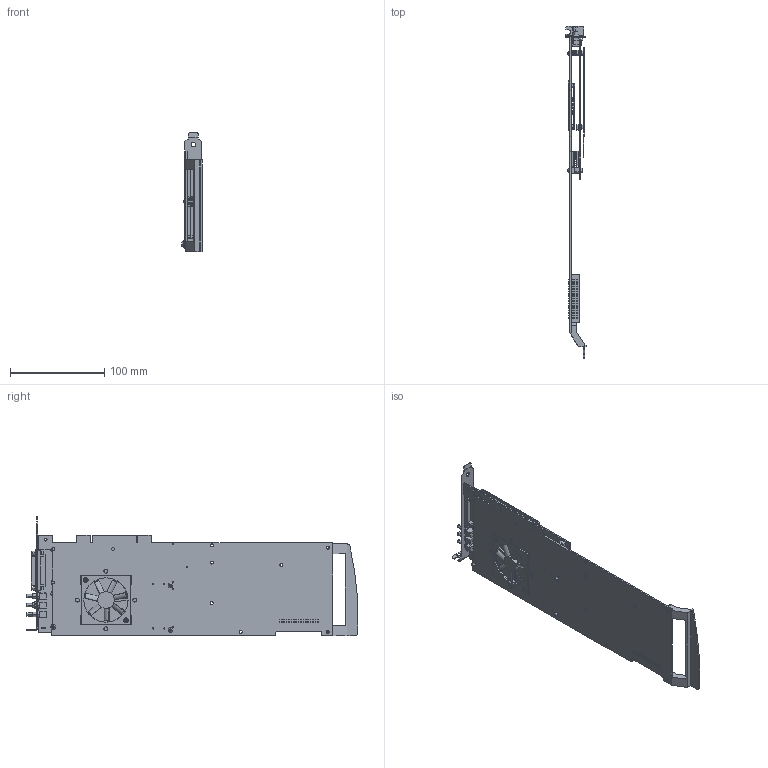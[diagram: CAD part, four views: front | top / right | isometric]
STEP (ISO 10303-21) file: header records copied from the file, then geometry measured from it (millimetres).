
FILE_DESCRIPTION((''),'2;1');
FILE_NAME('CU_PCI-655X','2010-01-18T',('jjorden'),(''),'PRO/ENGINEER BY PARAMETRIC TECHNOLOGY CORPORATION, 2006080','PRO/ENGINEER BY PARAMETRIC TECHNOLOGY CORPORATION, 2006080','');
FILE_SCHEMA(('CONFIG_CONTROL_DESIGN'));
Products named in the file (1): CU_PCI-655X
Bounding box: 22.07 x 352.24 x 126.37 mm (x, y, z)
Volume: 96175.3 mm3; surface area: 129100.9 mm2
Topology: 3 solids, 4 shells, 2832 faces, 7527 edges, 4798 vertices
Faces by surface type: plane 1978, cylinder 576, cone 120, bspline 106, sphere 34, torus 18
Entity records: 97883 total; most frequent: CARTESIAN_POINT 27005, ORIENTED_EDGE 14950, DIRECTION 13910, EDGE_CURVE 7475, VECTOR 5524, LINE 5524, VERTEX_POINT 4969, AXIS2_PLACEMENT_3D 4193
